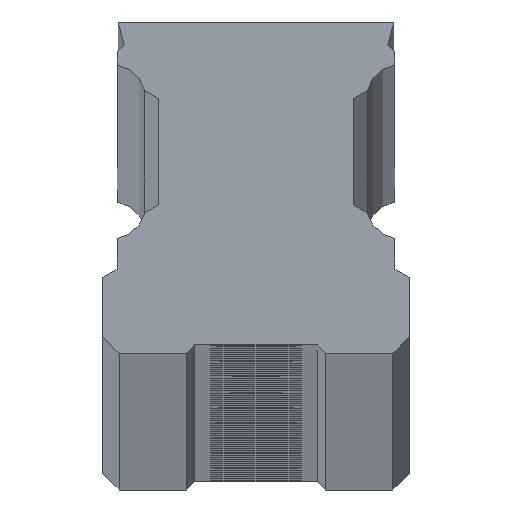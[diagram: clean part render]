
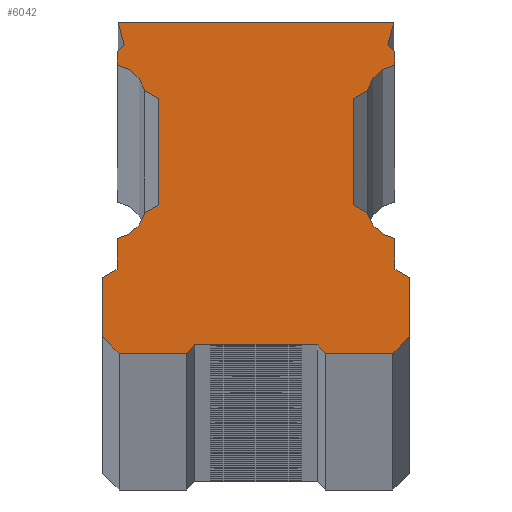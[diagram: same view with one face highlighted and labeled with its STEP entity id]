
A CAD part, top view. The second image highlights one B-rep face of the part: STEP entity #6042.
In plain terms, the highlighted planar face has unit normal (0, 0, 1).
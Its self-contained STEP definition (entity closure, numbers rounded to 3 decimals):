
#811=DIRECTION('',(-0.707,0.707,0.));
#812=VECTOR('',#811,1.131);
#813=CARTESIAN_POINT('',(-6.7,-9.85,1918.));
#814=LINE('',#813,#812);
#835=CARTESIAN_POINT('',(-7.046,-2.604,1918.));
#836=DIRECTION('',(0.,0.,-1.));
#837=DIRECTION('',(0.971,-0.241,0.));
#838=AXIS2_PLACEMENT_3D('',#835,#836,#837);
#845=DIRECTION('',(-0.707,-0.707,0.));
#846=VECTOR('',#845,0.566);
#847=CARTESIAN_POINT('',(-3.,-9.45,1918.));
#848=LINE('',#847,#846);
#849=DIRECTION('',(1.,0.,0.));
#850=VECTOR('',#849,3.3);
#851=CARTESIAN_POINT('',(-6.7,-9.85,1918.));
#852=LINE('',#851,#850);
#853=DIRECTION('',(0.,-1.,0.));
#854=VECTOR('',#853,2.896);
#855=CARTESIAN_POINT('',(-7.5,-6.154,1918.));
#856=LINE('',#855,#854);
#857=DIRECTION('',(0.866,0.5,0.));
#858=VECTOR('',#857,0.808);
#859=CARTESIAN_POINT('',(-7.5,-6.154,1918.));
#860=LINE('',#859,#858);
#861=DIRECTION('',(0.,-1.,0.));
#862=VECTOR('',#861,1.514);
#863=CARTESIAN_POINT('',(-6.8,-4.236,1918.));
#864=LINE('',#863,#862);
#865=DIRECTION('',(0.866,0.5,0.));
#866=VECTOR('',#865,0.802);
#867=CARTESIAN_POINT('',(-5.444,-3.001,1918.));
#868=LINE('',#867,#866);
#869=DIRECTION('',(0.,1.,0.));
#870=VECTOR('',#869,5.2);
#871=CARTESIAN_POINT('',(-4.75,-2.6,1918.));
#872=LINE('',#871,#870);
#873=DIRECTION('',(-0.866,0.5,0.));
#874=VECTOR('',#873,0.802);
#875=CARTESIAN_POINT('',(-4.75,2.6,1918.));
#876=LINE('',#875,#874);
#877=DIRECTION('',(0.,-1.,0.));
#878=VECTOR('',#877,0.664);
#879=CARTESIAN_POINT('',(-6.8,4.9,1918.));
#880=LINE('',#879,#878);
#881=DIRECTION('',(0.707,0.707,0.));
#882=VECTOR('',#881,0.495);
#883=CARTESIAN_POINT('',(-6.8,4.9,1918.));
#884=LINE('',#883,#882);
#885=DIRECTION('',(-0.259,0.966,0.));
#886=VECTOR('',#885,1.139);
#887=CARTESIAN_POINT('',(-6.45,5.25,1918.));
#888=LINE('',#887,#886);
#889=DIRECTION('',(-1.,0.,0.));
#890=VECTOR('',#889,13.489);
#891=CARTESIAN_POINT('',(6.745,6.35,1918.));
#892=LINE('',#891,#890);
#893=DIRECTION('',(-0.259,-0.966,0.));
#894=VECTOR('',#893,1.139);
#895=CARTESIAN_POINT('',(6.745,6.35,1918.));
#896=LINE('',#895,#894);
#897=DIRECTION('',(0.707,-0.707,0.));
#898=VECTOR('',#897,0.495);
#899=CARTESIAN_POINT('',(6.45,5.25,1918.));
#900=LINE('',#899,#898);
#901=DIRECTION('',(0.,-1.,0.));
#902=VECTOR('',#901,0.664);
#903=CARTESIAN_POINT('',(6.8,4.9,1918.));
#904=LINE('',#903,#902);
#905=DIRECTION('',(-0.866,-0.5,0.));
#906=VECTOR('',#905,0.802);
#907=CARTESIAN_POINT('',(5.444,3.001,1918.));
#908=LINE('',#907,#906);
#909=DIRECTION('',(0.,-1.,0.));
#910=VECTOR('',#909,5.2);
#911=CARTESIAN_POINT('',(4.75,2.6,1918.));
#912=LINE('',#911,#910);
#913=DIRECTION('',(0.866,-0.5,0.));
#914=VECTOR('',#913,0.802);
#915=CARTESIAN_POINT('',(4.75,-2.6,1918.));
#916=LINE('',#915,#914);
#917=DIRECTION('',(0.,-1.,0.));
#918=VECTOR('',#917,1.514);
#919=CARTESIAN_POINT('',(6.8,-4.236,1918.));
#920=LINE('',#919,#918);
#921=DIRECTION('',(0.866,-0.5,0.));
#922=VECTOR('',#921,0.808);
#923=CARTESIAN_POINT('',(6.8,-5.75,1918.));
#924=LINE('',#923,#922);
#925=DIRECTION('',(0.,1.,0.));
#926=VECTOR('',#925,2.896);
#927=CARTESIAN_POINT('',(7.5,-9.05,1918.));
#928=LINE('',#927,#926);
#929=DIRECTION('',(1.,0.,0.));
#930=VECTOR('',#929,3.3);
#931=CARTESIAN_POINT('',(3.4,-9.85,1918.));
#932=LINE('',#931,#930);
#933=DIRECTION('',(-0.707,0.707,0.));
#934=VECTOR('',#933,0.566);
#935=CARTESIAN_POINT('',(3.4,-9.85,1918.));
#936=LINE('',#935,#934);
#937=DIRECTION('',(-1.,0.,0.));
#938=VECTOR('',#937,6.);
#939=CARTESIAN_POINT('',(3.,-9.45,1918.));
#940=LINE('',#939,#938);
#957=CARTESIAN_POINT('',(-7.046,2.604,1918.));
#958=DIRECTION('',(0.,0.,-1.));
#959=DIRECTION('',(0.149,0.989,0.));
#960=AXIS2_PLACEMENT_3D('',#957,#958,#959);
#1640=CARTESIAN_POINT('',(7.046,-2.604,1918.));
#1641=DIRECTION('',(0.,0.,-1.));
#1642=DIRECTION('',(-0.149,-0.989,0.));
#1643=AXIS2_PLACEMENT_3D('',#1640,#1641,#1642);
#1661=CARTESIAN_POINT('',(7.046,2.604,1918.));
#1662=DIRECTION('',(0.,0.,-1.));
#1663=DIRECTION('',(-0.971,0.241,0.));
#1664=AXIS2_PLACEMENT_3D('',#1661,#1662,#1663);
#1691=DIRECTION('',(-0.707,-0.707,0.));
#1692=VECTOR('',#1691,1.131);
#1693=CARTESIAN_POINT('',(7.5,-9.05,1918.));
#1694=LINE('',#1693,#1692);
#4651=CARTESIAN_POINT('',(6.8,-5.75,1918.));
#4652=CARTESIAN_POINT('',(7.5,-6.154,1918.));
#4653=VERTEX_POINT('',#4651);
#4654=VERTEX_POINT('',#4652);
#4655=CARTESIAN_POINT('',(-7.5,-6.154,1918.));
#4656=CARTESIAN_POINT('',(-6.8,-5.75,1918.));
#4657=VERTEX_POINT('',#4655);
#4658=VERTEX_POINT('',#4656);
#4660=CARTESIAN_POINT('',(6.8,4.236,1918.));
#4662=VERTEX_POINT('',#4660);
#4664=CARTESIAN_POINT('',(6.8,-4.236,1918.));
#4666=VERTEX_POINT('',#4664);
#4668=CARTESIAN_POINT('',(-6.8,4.236,1918.));
#4670=VERTEX_POINT('',#4668);
#4672=CARTESIAN_POINT('',(-6.8,-4.236,1918.));
#4674=VERTEX_POINT('',#4672);
#4683=CARTESIAN_POINT('',(4.75,2.6,1918.));
#4684=CARTESIAN_POINT('',(4.75,-2.6,1918.));
#4685=VERTEX_POINT('',#4683);
#4686=VERTEX_POINT('',#4684);
#4687=CARTESIAN_POINT('',(5.444,-3.001,1918.));
#4688=VERTEX_POINT('',#4687);
#4689=CARTESIAN_POINT('',(5.444,3.001,1918.));
#4690=VERTEX_POINT('',#4689);
#4691=CARTESIAN_POINT('',(-5.444,3.001,1918.));
#4692=VERTEX_POINT('',#4691);
#4695=CARTESIAN_POINT('',(-5.444,-3.001,1918.));
#4696=VERTEX_POINT('',#4695);
#4711=CARTESIAN_POINT('',(6.745,6.35,1918.));
#4712=CARTESIAN_POINT('',(6.45,5.25,1918.));
#4713=VERTEX_POINT('',#4711);
#4714=VERTEX_POINT('',#4712);
#4715=CARTESIAN_POINT('',(6.8,4.9,1918.));
#4716=VERTEX_POINT('',#4715);
#4717=CARTESIAN_POINT('',(-6.8,4.9,1918.));
#4718=CARTESIAN_POINT('',(-6.45,5.25,1918.));
#4719=VERTEX_POINT('',#4717);
#4720=VERTEX_POINT('',#4718);
#4721=CARTESIAN_POINT('',(-6.745,6.35,1918.));
#4722=VERTEX_POINT('',#4721);
#4724=CARTESIAN_POINT('',(7.5,-9.05,1918.));
#4726=VERTEX_POINT('',#4724);
#4728=CARTESIAN_POINT('',(6.7,-9.85,1918.));
#4730=VERTEX_POINT('',#4728);
#4732=CARTESIAN_POINT('',(-6.7,-9.85,1918.));
#4734=VERTEX_POINT('',#4732);
#4736=CARTESIAN_POINT('',(-7.5,-9.05,1918.));
#4738=VERTEX_POINT('',#4736);
#4747=CARTESIAN_POINT('',(-3.,-9.45,1918.));
#4748=CARTESIAN_POINT('',(-3.4,-9.85,1918.));
#4749=VERTEX_POINT('',#4747);
#4750=VERTEX_POINT('',#4748);
#4751=CARTESIAN_POINT('',(3.4,-9.85,1918.));
#4752=CARTESIAN_POINT('',(3.,-9.45,1918.));
#4753=VERTEX_POINT('',#4751);
#4754=VERTEX_POINT('',#4752);
#4775=CARTESIAN_POINT('',(-4.75,-2.6,1918.));
#4776=VERTEX_POINT('',#4775);
#4777=CARTESIAN_POINT('',(-4.75,2.6,1918.));
#4778=VERTEX_POINT('',#4777);
#5984=CARTESIAN_POINT('',(0.,0.,1918.));
#5985=DIRECTION('',(0.,0.,1.));
#5986=DIRECTION('',(1.,0.,0.));
#5987=AXIS2_PLACEMENT_3D('',#5984,#5985,#5986);
#5988=PLANE('',#5987);
#5989=ORIENTED_EDGE('',*,*,#5863,.T.);
#5990=ORIENTED_EDGE('',*,*,#5879,.F.);
#5991=ORIENTED_EDGE('',*,*,#5908,.T.);
#5992=ORIENTED_EDGE('',*,*,#5920,.F.);
#5993=ORIENTED_EDGE('',*,*,#5935,.T.);
#5994=ORIENTED_EDGE('',*,*,#5948,.F.);
#5995=ORIENTED_EDGE('',*,*,#5975,.F.);
#5997=ORIENTED_EDGE('',*,*,#5996,.T.);
#5999=ORIENTED_EDGE('',*,*,#5998,.T.);
#6001=ORIENTED_EDGE('',*,*,#6000,.T.);
#6003=ORIENTED_EDGE('',*,*,#6002,.F.);
#6004=ORIENTED_EDGE('',*,*,#5962,.F.);
#6006=ORIENTED_EDGE('',*,*,#6005,.T.);
#6008=ORIENTED_EDGE('',*,*,#6007,.T.);
#6010=ORIENTED_EDGE('',*,*,#6009,.F.);
#6012=ORIENTED_EDGE('',*,*,#6011,.T.);
#6014=ORIENTED_EDGE('',*,*,#6013,.T.);
#6016=ORIENTED_EDGE('',*,*,#6015,.T.);
#6018=ORIENTED_EDGE('',*,*,#6017,.F.);
#6020=ORIENTED_EDGE('',*,*,#6019,.T.);
#6022=ORIENTED_EDGE('',*,*,#6021,.T.);
#6024=ORIENTED_EDGE('',*,*,#6023,.T.);
#6026=ORIENTED_EDGE('',*,*,#6025,.F.);
#6028=ORIENTED_EDGE('',*,*,#6027,.T.);
#6030=ORIENTED_EDGE('',*,*,#6029,.T.);
#6032=ORIENTED_EDGE('',*,*,#6031,.F.);
#6034=ORIENTED_EDGE('',*,*,#6033,.T.);
#6035=ORIENTED_EDGE('',*,*,#5891,.F.);
#6037=ORIENTED_EDGE('',*,*,#6036,.T.);
#6039=ORIENTED_EDGE('',*,*,#6038,.T.);
#6040=EDGE_LOOP('',(#5989,#5990,#5991,#5992,#5993,#5994,#5995,#5997,#5999,#6001,
#6003,#6004,#6006,#6008,#6010,#6012,#6014,#6016,#6018,#6020,#6022,#6024,#6026,
#6028,#6030,#6032,#6034,#6035,#6037,#6039));
#6041=FACE_OUTER_BOUND('',#6040,.F.);
#6042=ADVANCED_FACE('',(#6041),#5988,.T.);
#839=CIRCLE('',#838,1.65);
#961=CIRCLE('',#960,1.65);
#1644=CIRCLE('',#1643,1.65);
#1665=CIRCLE('',#1664,1.65);
#5863=EDGE_CURVE('',#4749,#4750,#848,.T.);
#5879=EDGE_CURVE('',#4734,#4750,#852,.T.);
#5891=EDGE_CURVE('',#4753,#4730,#932,.T.);
#5908=EDGE_CURVE('',#4734,#4738,#814,.T.);
#5920=EDGE_CURVE('',#4657,#4738,#856,.T.);
#5935=EDGE_CURVE('',#4657,#4658,#860,.T.);
#5948=EDGE_CURVE('',#4674,#4658,#864,.T.);
#5962=EDGE_CURVE('',#4719,#4670,#880,.T.);
#5975=EDGE_CURVE('',#4696,#4674,#839,.T.);
#5996=EDGE_CURVE('',#4696,#4776,#868,.T.);
#5998=EDGE_CURVE('',#4776,#4778,#872,.T.);
#6000=EDGE_CURVE('',#4778,#4692,#876,.T.);
#6002=EDGE_CURVE('',#4670,#4692,#961,.T.);
#6005=EDGE_CURVE('',#4719,#4720,#884,.T.);
#6007=EDGE_CURVE('',#4720,#4722,#888,.T.);
#6009=EDGE_CURVE('',#4713,#4722,#892,.T.);
#6011=EDGE_CURVE('',#4713,#4714,#896,.T.);
#6013=EDGE_CURVE('',#4714,#4716,#900,.T.);
#6015=EDGE_CURVE('',#4716,#4662,#904,.T.);
#6017=EDGE_CURVE('',#4690,#4662,#1665,.T.);
#6019=EDGE_CURVE('',#4690,#4685,#908,.T.);
#6021=EDGE_CURVE('',#4685,#4686,#912,.T.);
#6023=EDGE_CURVE('',#4686,#4688,#916,.T.);
#6025=EDGE_CURVE('',#4666,#4688,#1644,.T.);
#6027=EDGE_CURVE('',#4666,#4653,#920,.T.);
#6029=EDGE_CURVE('',#4653,#4654,#924,.T.);
#6031=EDGE_CURVE('',#4726,#4654,#928,.T.);
#6033=EDGE_CURVE('',#4726,#4730,#1694,.T.);
#6036=EDGE_CURVE('',#4753,#4754,#936,.T.);
#6038=EDGE_CURVE('',#4754,#4749,#940,.T.);
